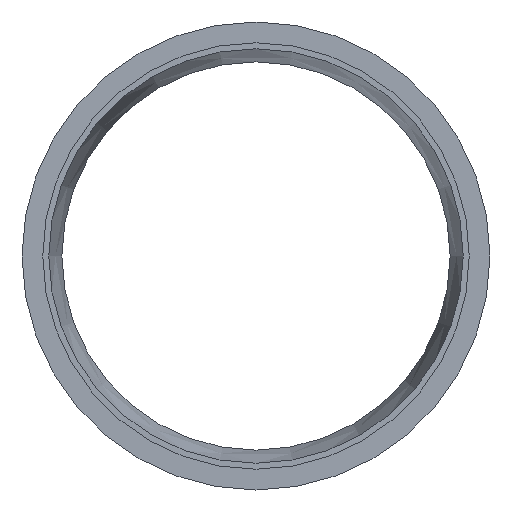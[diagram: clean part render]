
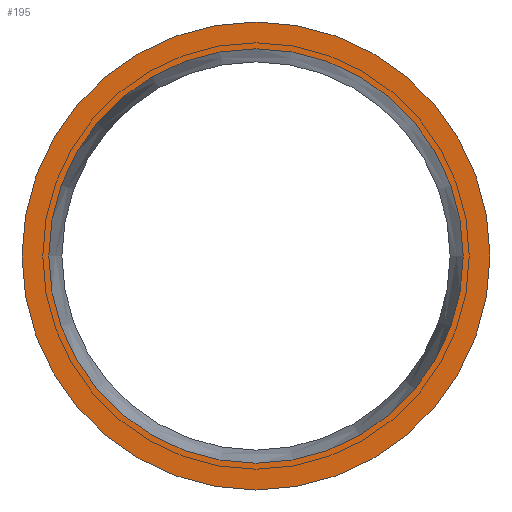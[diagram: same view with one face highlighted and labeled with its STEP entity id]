
A CAD part, left-side view. The second image highlights one B-rep face of the part: STEP entity #195.
In plain terms, the highlighted planar face has unit normal (-1, 0, 0).
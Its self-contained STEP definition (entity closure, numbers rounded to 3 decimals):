
#73=CARTESIAN_POINT('',(-27.081,164.116,0.));
#74=VERTEX_POINT('',#73);
#75=CARTESIAN_POINT('',(-27.081,104.334,0.0));
#76=DIRECTION('',(1.0,0.0,0.0));
#77=DIRECTION('',(0.0,-1.0,0.0));
#78=AXIS2_PLACEMENT_3D('',#75,#76,#77);
#79=CIRCLE('',#78,59.781);
#80=EDGE_CURVE('',#74,#74,#79,.T.);
#169=CARTESIAN_POINT('',(-27.081,36.834,0.0));
#170=VERTEX_POINT('',#169);
#171=CARTESIAN_POINT('',(-27.081,104.334,0.0));
#172=DIRECTION('',(-1.0,0.0,0.0));
#173=DIRECTION('',(0.0,-1.0,0.0));
#174=AXIS2_PLACEMENT_3D('',#171,#172,#173);
#175=CIRCLE('',#174,67.5);
#176=EDGE_CURVE('',#170,#170,#175,.T.);
#184=CARTESIAN_POINT('',(-27.081,70.584,0.0));
#185=DIRECTION('',(-1.0,0.0,0.0));
#186=DIRECTION('',(0.0,0.0,1.0));
#187=AXIS2_PLACEMENT_3D('',#184,#185,#186);
#188=PLANE('',#187);
#189=ORIENTED_EDGE('',*,*,#176,.T.);
#190=EDGE_LOOP('',(#189));
#191=FACE_OUTER_BOUND('',#190,.T.);
#192=ORIENTED_EDGE('',*,*,#80,.T.);
#193=EDGE_LOOP('',(#192));
#194=FACE_BOUND('',#193,.T.);
#195=ADVANCED_FACE('',(#191,#194),#188,.T.);
